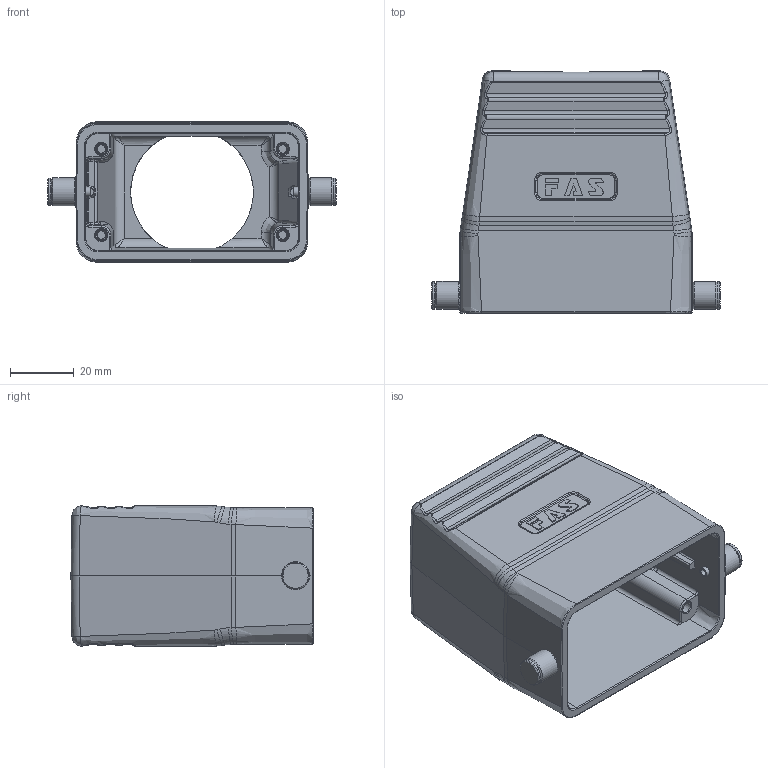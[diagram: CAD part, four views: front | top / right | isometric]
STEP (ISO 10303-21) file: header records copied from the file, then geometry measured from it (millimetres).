
FILE_DESCRIPTION (( 'STEP AP203' ), '1' );
FILE_NAME ('H10B-TGH-RO-M40.STEP', '2023-06-06T08:23:49', ( '' ), ( '' ), 'SwSTEP 2.0', 'SolidWorks 2016', '' );
FILE_SCHEMA (( 'CONFIG_CONTROL_DESIGN' ));
Length unit declared in the file: millimetre
Products named in the file (1): H10B-TGH-RO-M40
Bounding box: 90.57 x 76 x 44 mm (x, y, z)
Volume: 70841.9 mm3; surface area: 34306.8 mm2
Topology: 1 solids, 1 shells, 496 faces, 1229 edges, 761 vertices
Faces by surface type: cylinder 157, plane 156, bspline 108, torus 46, cone 25, sphere 4
Full cylindrical faces by diameter (mm): 2 x2, 3 x2, 4.8 x2, 5 x2, 8.5 x2, 8.8 x2, 38.5 x1
Entity records: 24770 total; most frequent: CARTESIAN_POINT 14914, ORIENTED_EDGE 2332, DIRECTION 1512, EDGE_CURVE 1166, VERTEX_POINT 741, EDGE_LOOP 565, AXIS2_PLACEMENT_3D 553, FACE_OUTER_BOUND 512
